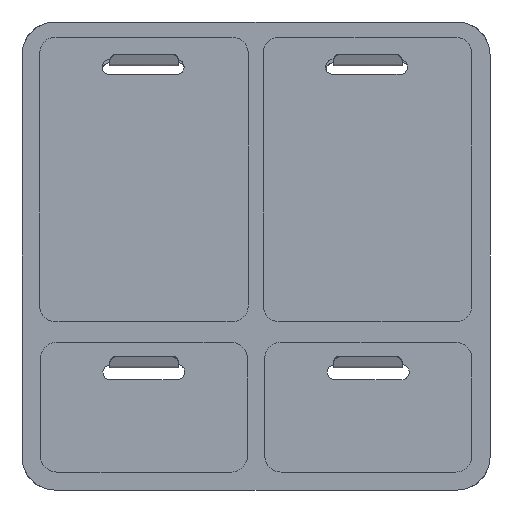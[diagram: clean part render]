
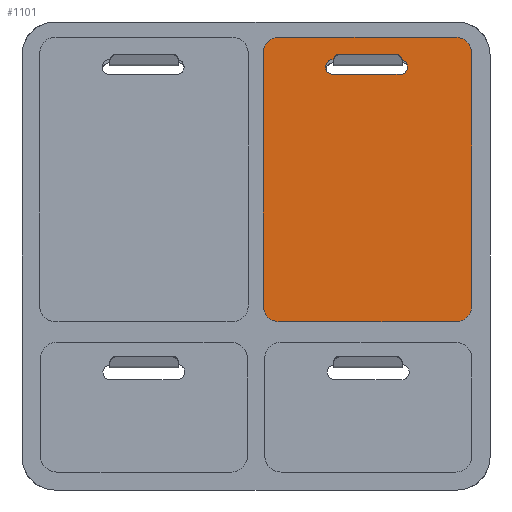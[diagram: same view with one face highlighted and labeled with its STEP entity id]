
A CAD part, front view. The second image highlights one B-rep face of the part: STEP entity #1101.
In plain terms, the highlighted planar face has unit normal (0, -1, 0).
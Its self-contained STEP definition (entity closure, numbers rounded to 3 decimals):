
#480=FACE_BOUND($,#1843,.T.);
#595=PLANE($,#7315);
#1101=ADVANCED_FACE($,(#1460,#480),#595,.T.);
#1460=FACE_OUTER_BOUND($,#1842,.T.);
#1842=EDGE_LOOP($,(#2758,#2759));
#1843=EDGE_LOOP($,(#2760,#2761));
#2758=ORIENTED_EDGE($,*,*,#4297,.F.);
#2759=ORIENTED_EDGE($,*,*,#4302,.F.);
#2760=ORIENTED_EDGE($,*,*,#4303,.F.);
#2761=ORIENTED_EDGE($,*,*,#4300,.F.);
#4297=EDGE_CURVE($,#5482,#5483,#6616,.T.);
#4300=EDGE_CURVE($,#5484,#5485,#6619,.T.);
#4302=EDGE_CURVE($,#5483,#5482,#6621,.T.);
#4303=EDGE_CURVE($,#5485,#5484,#6622,.T.);
#5482=VERTEX_POINT($,#10791);
#5483=VERTEX_POINT($,#10792);
#5484=VERTEX_POINT($,#10793);
#5485=VERTEX_POINT($,#10794);
#6616=(
BOUNDED_CURVE()
B_SPLINE_CURVE(2,(#10683,#10684,#10685,#10686,#10687,#10688,#10689,#10690,
#10691),.UNSPECIFIED.,.F.,.F.)
B_SPLINE_CURVE_WITH_KNOTS((3,2,2,2,3),(-346.721,-329.442,
-160.442,-143.164,-25.164),.UNSPECIFIED.)
CURVE()
GEOMETRIC_REPRESENTATION_ITEM()
RATIONAL_B_SPLINE_CURVE((1.,0.707,1.,1.,1.,0.707,
1.,1.,1.))
REPRESENTATION_ITEM($)
);
#6619=(
BOUNDED_CURVE()
B_SPLINE_CURVE(2,(#10696,#10697,#10698,#10699,#10700,#10701,#10702),.UNSPECIFIED.,
.F.,.F.)
B_SPLINE_CURVE_WITH_KNOTS((3,2,2,3),(152.832,197.832,205.686,
213.54),.UNSPECIFIED.)
CURVE()
GEOMETRIC_REPRESENTATION_ITEM()
RATIONAL_B_SPLINE_CURVE((1.,1.,1.,0.707,1.,0.707,
1.))
REPRESENTATION_ITEM($)
);
#6621=(
BOUNDED_CURVE()
B_SPLINE_CURVE(2,(#10705,#10706,#10707,#10708,#10709,#10710,#10711,#10712,
#10713),.UNSPECIFIED.,.F.,.F.)
B_SPLINE_CURVE_WITH_KNOTS((3,2,2,2,3),(-668.279,-651.,-482.,-464.721,
-346.721),.UNSPECIFIED.)
CURVE()
GEOMETRIC_REPRESENTATION_ITEM()
RATIONAL_B_SPLINE_CURVE((1.,0.707,1.,1.,1.,0.707,
1.,1.,1.))
REPRESENTATION_ITEM($)
);
#6622=(
BOUNDED_CURVE()
B_SPLINE_CURVE(2,(#10714,#10715,#10716,#10717,#10718,#10719,#10720),.UNSPECIFIED.,
.F.,.F.)
B_SPLINE_CURVE_WITH_KNOTS((3,2,2,3),(92.124,137.124,144.978,
152.832),.UNSPECIFIED.)
CURVE()
GEOMETRIC_REPRESENTATION_ITEM()
RATIONAL_B_SPLINE_CURVE((1.,1.,1.,0.707,1.,0.707,
1.))
REPRESENTATION_ITEM($)
);
#7315=AXIS2_PLACEMENT_3D($,#10754,#7462,$);
#7462=DIRECTION($,(0.,-1.,0.));
#10683=CARTESIAN_POINT($,(143.294,7.614,303.826));
#10684=CARTESIAN_POINT($,(154.294,7.614,303.826));
#10685=CARTESIAN_POINT($,(154.294,7.614,292.826));
#10686=CARTESIAN_POINT($,(154.294,7.614,208.326));
#10687=CARTESIAN_POINT($,(154.294,7.614,123.826));
#10688=CARTESIAN_POINT($,(154.294,7.614,112.826));
#10689=CARTESIAN_POINT($,(143.294,7.614,112.826));
#10690=CARTESIAN_POINT($,(84.294,7.614,112.826));
#10691=CARTESIAN_POINT($,(25.294,7.614,112.826));
#10696=CARTESIAN_POINT($,(106.219,7.614,288.826));
#10697=CARTESIAN_POINT($,(83.719,7.614,288.826));
#10698=CARTESIAN_POINT($,(61.219,7.614,288.826));
#10699=CARTESIAN_POINT($,(56.219,7.614,288.826));
#10700=CARTESIAN_POINT($,(56.219,7.614,283.826));
#10701=CARTESIAN_POINT($,(56.219,7.614,278.826));
#10702=CARTESIAN_POINT($,(61.219,7.614,278.826));
#10705=CARTESIAN_POINT($,(25.294,7.614,112.826));
#10706=CARTESIAN_POINT($,(14.294,7.614,112.826));
#10707=CARTESIAN_POINT($,(14.294,7.614,123.826));
#10708=CARTESIAN_POINT($,(14.294,7.614,208.326));
#10709=CARTESIAN_POINT($,(14.294,7.614,292.826));
#10710=CARTESIAN_POINT($,(14.294,7.614,303.826));
#10711=CARTESIAN_POINT($,(25.294,7.614,303.826));
#10712=CARTESIAN_POINT($,(84.294,7.614,303.826));
#10713=CARTESIAN_POINT($,(143.294,7.614,303.826));
#10714=CARTESIAN_POINT($,(61.219,7.614,278.826));
#10715=CARTESIAN_POINT($,(83.719,7.614,278.826));
#10716=CARTESIAN_POINT($,(106.219,7.614,278.826));
#10717=CARTESIAN_POINT($,(111.219,7.614,278.826));
#10718=CARTESIAN_POINT($,(111.219,7.614,283.826));
#10719=CARTESIAN_POINT($,(111.219,7.614,288.826));
#10720=CARTESIAN_POINT($,(106.219,7.614,288.826));
#10754=CARTESIAN_POINT($,(12.894,7.614,305.736));
#10791=CARTESIAN_POINT($,(143.294,7.614,303.826));
#10792=CARTESIAN_POINT($,(25.294,7.614,112.826));
#10793=CARTESIAN_POINT($,(106.219,7.614,288.826));
#10794=CARTESIAN_POINT($,(61.219,7.614,278.826));
